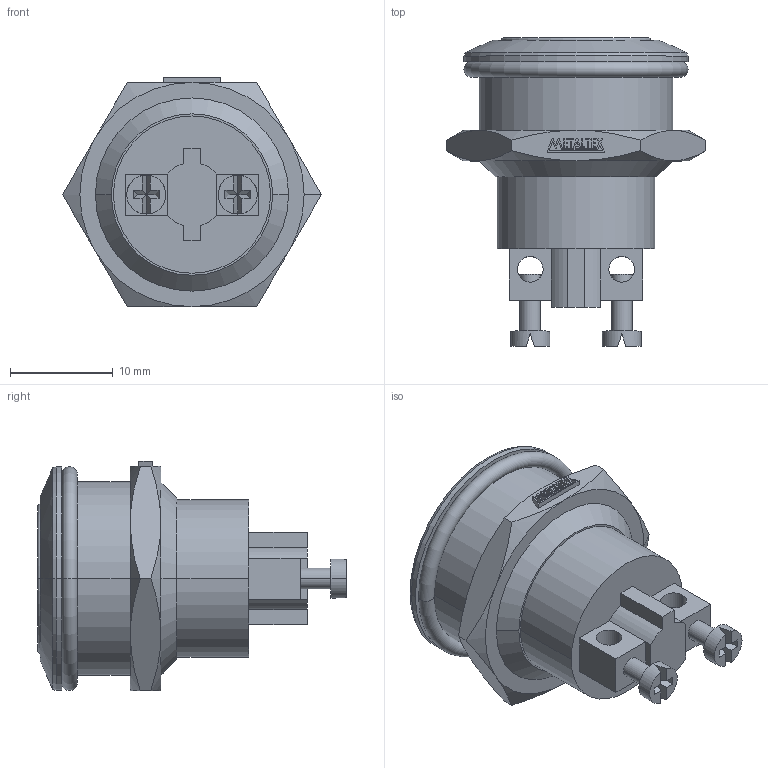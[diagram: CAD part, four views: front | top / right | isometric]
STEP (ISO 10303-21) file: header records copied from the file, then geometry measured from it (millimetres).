
FILE_DESCRIPTION (( 'STEP AP203' ), '1' );
FILE_NAME ('AV19FA.STEP', '2018-01-17T14:30:38', ( '' ), ( '' ), 'SwSTEP 2.0', 'SolidWorks 2012', '' );
FILE_SCHEMA (( 'CONFIG_CONTROL_DESIGN' ));
Length unit declared in the file: millimetre
Products named in the file (3): METALTEX 5,62; AV19FA
Assembly tree (2 placements, depth 2):
  AV19FA
    AV19FA
    METALTEX 5,62
Bounding box: 25.2 x 30.05 x 22.32 mm (x, y, z)
Volume: 5872 mm3; surface area: 2793.8 mm2
Topology: 8 solids, 8 shells, 209 faces, 504 edges, 324 vertices
Faces by surface type: plane 155, cylinder 30, cone 18, torus 4, sphere 2
Entity records: 6467 total; most frequent: CARTESIAN_POINT 1278, ORIENTED_EDGE 1008, DIRECTION 988, EDGE_CURVE 504, LINE 376, VECTOR 376, VERTEX_POINT 324, AXIS2_PLACEMENT_3D 306
